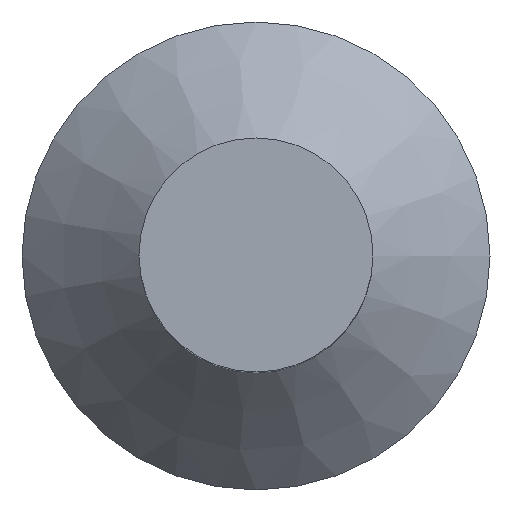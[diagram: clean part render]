
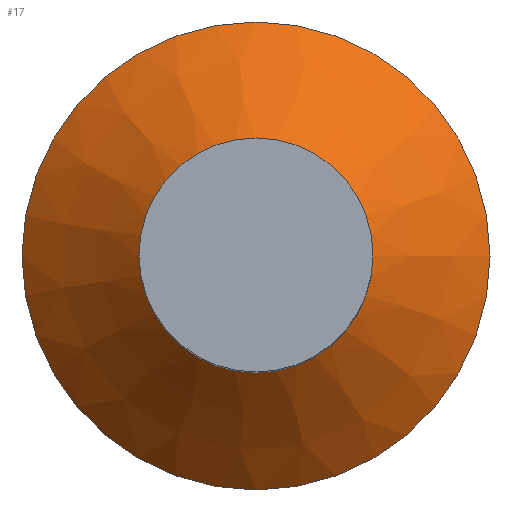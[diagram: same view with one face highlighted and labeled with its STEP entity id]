
A CAD part, top view. The second image highlights one B-rep face of the part: STEP entity #17.
In plain terms, the highlighted conical face has half-angle 45 degrees and reference radius 2 mm.
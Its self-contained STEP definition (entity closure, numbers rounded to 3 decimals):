
#17 = ADVANCED_FACE('',(#18),#31,.T.);
#18 = FACE_BOUND('',#19,.T.);
#19 = EDGE_LOOP('',(#20,#54,#77,#104));
#20 = ORIENTED_EDGE('',*,*,#21,.F.);
#21 = EDGE_CURVE('',#22,#22,#24,.T.);
#22 = VERTEX_POINT('',#23);
#23 = CARTESIAN_POINT('',(-8.1,18.,-6.15));
#24 = SURFACE_CURVE('',#25,(#30,#42),.PCURVE_S1.);
#25 = CIRCLE('',#26,1.);
#26 = AXIS2_PLACEMENT_3D('',#27,#28,#29);
#27 = CARTESIAN_POINT('',(-9.1,18.,-6.15));
#28 = DIRECTION('',(0.,0.,1.));
#29 = DIRECTION('',(1.,0.,-0.));
#30 = PCURVE('',#31,#36);
#31 = CONICAL_SURFACE('',#32,2.,0.785);
#32 = AXIS2_PLACEMENT_3D('',#33,#34,#35);
#33 = CARTESIAN_POINT('',(-9.1,18.,-7.15));
#34 = DIRECTION('',(-0.,-0.,-1.));
#35 = DIRECTION('',(1.,0.,-0.));
#36 = DEFINITIONAL_REPRESENTATION('',(#37),#41);
#37 = LINE('',#38,#39);
#38 = CARTESIAN_POINT('',(-0.,-1.));
#39 = VECTOR('',#40,1.);
#40 = DIRECTION('',(-1.,-0.));
#41 = ( GEOMETRIC_REPRESENTATION_CONTEXT(2) 
PARAMETRIC_REPRESENTATION_CONTEXT() REPRESENTATION_CONTEXT('2D SPACE',''
  ) );
#42 = PCURVE('',#43,#48);
#43 = CYLINDRICAL_SURFACE('',#44,1.);
#44 = AXIS2_PLACEMENT_3D('',#45,#46,#47);
#45 = CARTESIAN_POINT('',(-9.1,18.,-6.16));
#46 = DIRECTION('',(0.,0.,1.));
#47 = DIRECTION('',(1.,0.,-0.));
#48 = DEFINITIONAL_REPRESENTATION('',(#49),#53);
#49 = LINE('',#50,#51);
#50 = CARTESIAN_POINT('',(0.,0.01));
#51 = VECTOR('',#52,1.);
#52 = DIRECTION('',(1.,0.));
#53 = ( GEOMETRIC_REPRESENTATION_CONTEXT(2) 
PARAMETRIC_REPRESENTATION_CONTEXT() REPRESENTATION_CONTEXT('2D SPACE',''
  ) );
#54 = ORIENTED_EDGE('',*,*,#55,.F.);
#55 = EDGE_CURVE('',#56,#22,#58,.T.);
#56 = VERTEX_POINT('',#57);
#57 = CARTESIAN_POINT('',(-7.1,18.,-7.15));
#58 = SEAM_CURVE('',#59,(#63,#70),.PCURVE_S1.);
#59 = LINE('',#60,#61);
#60 = CARTESIAN_POINT('',(-7.1,18.,-7.15));
#61 = VECTOR('',#62,1.);
#62 = DIRECTION('',(-0.707,0.,0.707));
#63 = PCURVE('',#31,#64);
#64 = DEFINITIONAL_REPRESENTATION('',(#65),#69);
#65 = LINE('',#66,#67);
#66 = CARTESIAN_POINT('',(-6.283,0.));
#67 = VECTOR('',#68,1.);
#68 = DIRECTION('',(-0.,-1.));
#69 = ( GEOMETRIC_REPRESENTATION_CONTEXT(2) 
PARAMETRIC_REPRESENTATION_CONTEXT() REPRESENTATION_CONTEXT('2D SPACE',''
  ) );
#70 = PCURVE('',#31,#71);
#71 = DEFINITIONAL_REPRESENTATION('',(#72),#76);
#72 = LINE('',#73,#74);
#73 = CARTESIAN_POINT('',(0.,-0.));
#74 = VECTOR('',#75,1.);
#75 = DIRECTION('',(-0.,-1.));
#76 = ( GEOMETRIC_REPRESENTATION_CONTEXT(2) 
PARAMETRIC_REPRESENTATION_CONTEXT() REPRESENTATION_CONTEXT('2D SPACE',''
  ) );
#77 = ORIENTED_EDGE('',*,*,#78,.T.);
#78 = EDGE_CURVE('',#56,#56,#79,.T.);
#79 = SURFACE_CURVE('',#80,(#85,#92),.PCURVE_S1.);
#80 = CIRCLE('',#81,2.);
#81 = AXIS2_PLACEMENT_3D('',#82,#83,#84);
#82 = CARTESIAN_POINT('',(-9.1,18.,-7.15));
#83 = DIRECTION('',(0.,0.,1.));
#84 = DIRECTION('',(1.,0.,-0.));
#85 = PCURVE('',#31,#86);
#86 = DEFINITIONAL_REPRESENTATION('',(#87),#91);
#87 = LINE('',#88,#89);
#88 = CARTESIAN_POINT('',(-0.,-0.));
#89 = VECTOR('',#90,1.);
#90 = DIRECTION('',(-1.,-0.));
#91 = ( GEOMETRIC_REPRESENTATION_CONTEXT(2) 
PARAMETRIC_REPRESENTATION_CONTEXT() REPRESENTATION_CONTEXT('2D SPACE',''
  ) );
#92 = PCURVE('',#93,#98);
#93 = PLANE('',#94);
#94 = AXIS2_PLACEMENT_3D('',#95,#96,#97);
#95 = CARTESIAN_POINT('',(-9.1,18.,-7.15));
#96 = DIRECTION('',(0.,0.,1.));
#97 = DIRECTION('',(1.,0.,-0.));
#98 = DEFINITIONAL_REPRESENTATION('',(#99),#103);
#99 = CIRCLE('',#100,2.);
#100 = AXIS2_PLACEMENT_2D('',#101,#102);
#101 = CARTESIAN_POINT('',(0.,0.));
#102 = DIRECTION('',(1.,0.));
#103 = ( GEOMETRIC_REPRESENTATION_CONTEXT(2) 
PARAMETRIC_REPRESENTATION_CONTEXT() REPRESENTATION_CONTEXT('2D SPACE',''
  ) );
#104 = ORIENTED_EDGE('',*,*,#55,.T.);
